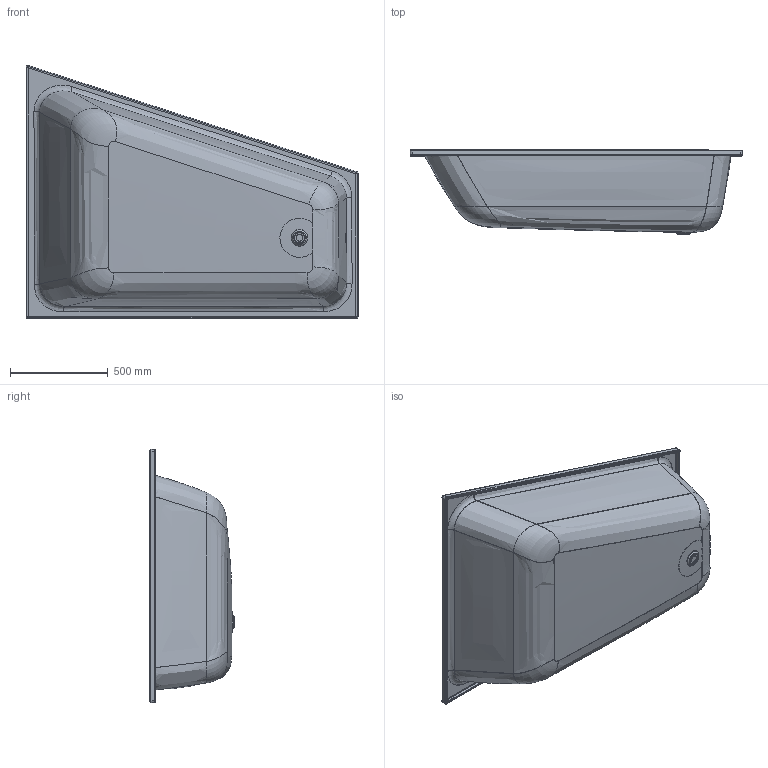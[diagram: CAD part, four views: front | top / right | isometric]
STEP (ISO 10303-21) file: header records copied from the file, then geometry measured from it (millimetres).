
FILE_DESCRIPTION((' '),'2;1');
FILE_NAME( '177f1b7352483ac3.stp', '2021-03-02T07:54:11', (' '), ('--- Datakit www.datakit.com---'), ' Datakit CrossCadWare V2021.1 Jan 6 2021', 'DATAKIT 2021 (c)', ' ');
FILE_SCHEMA(('CONFIG_CONTROL_DESIGN'));
Length unit declared in the file: millimetre
Products named in the file (1): 177f1b7122a0c3c3
Bounding box: 1699 x 430 x 1295.06 mm (x, y, z)
Volume: 7291966.3 mm3; surface area: 6326091.9 mm2
Topology: 3 solids, 3 shells, 149 faces, 339 edges, 200 vertices
Faces by surface type: cylinder 34, torus 32, bspline 32, plane 27, offset 20, cone 4
Full cylindrical faces by diameter (mm): 35 x1, 52 x2
Entity records: 29602 total; most frequent: CARTESIAN_POINT 26652, ORIENTED_EDGE 640, DIRECTION 498, EDGE_CURVE 320, AXIS2_PLACEMENT_3D 209, VERTEX_POINT 196, EDGE_LOOP 171, ADVANCED_FACE 149
